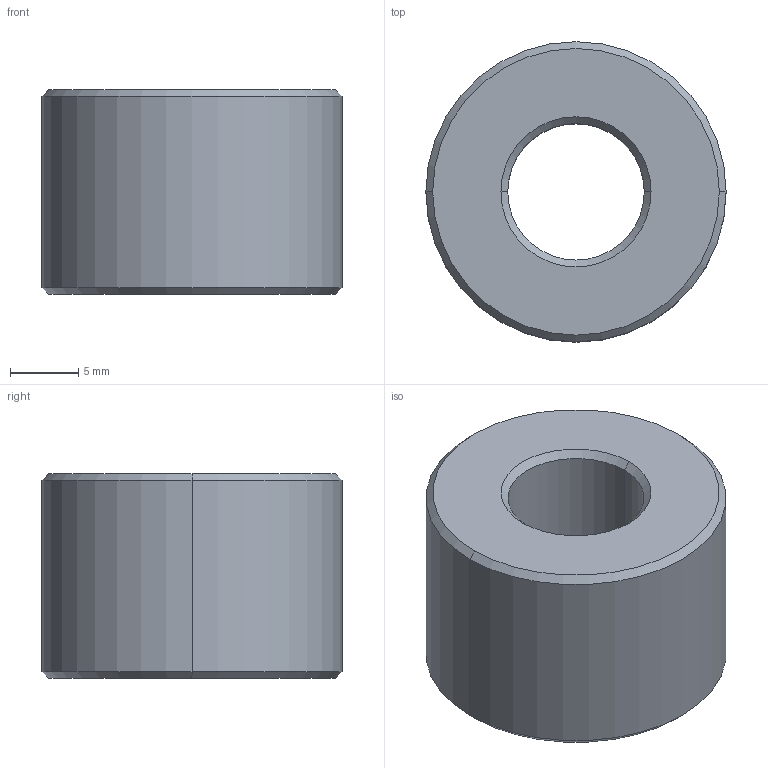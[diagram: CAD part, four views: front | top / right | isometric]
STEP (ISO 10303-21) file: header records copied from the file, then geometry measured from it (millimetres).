
FILE_DESCRIPTION (( 'STEP AP203' ), '1' );
FILE_NAME ('L1339.R10-04.step', '2024-10-24T14:08:06', ( '' ), ( '' ), 'SwSTEP 2.0', 'SolidWorks 2019', '' );
FILE_SCHEMA (( 'CONFIG_CONTROL_DESIGN' ));
Length unit declared in the file: millimetre
Products named in the file (1): L1339.R10-04
Bounding box: 22 x 22 x 15 mm (x, y, z)
Volume: 4498.8 mm3; surface area: 2052.3 mm2
Topology: 1 solids, 1 shells, 14 faces, 28 edges, 16 vertices
Faces by surface type: cone 8, cylinder 4, plane 2
Entity records: 445 total; most frequent: DIRECTION 74, CARTESIAN_POINT 59, ORIENTED_EDGE 56, AXIS2_PLACEMENT_3D 31, EDGE_CURVE 28, CIRCLE 16, VERTEX_POINT 16, EDGE_LOOP 16
